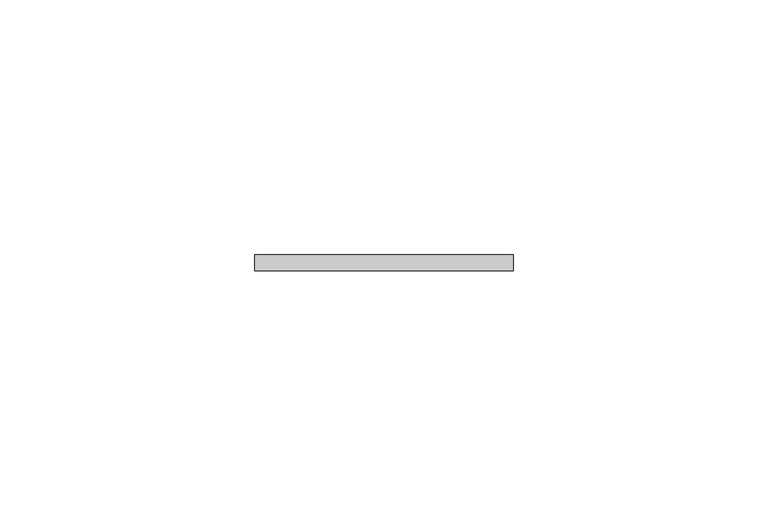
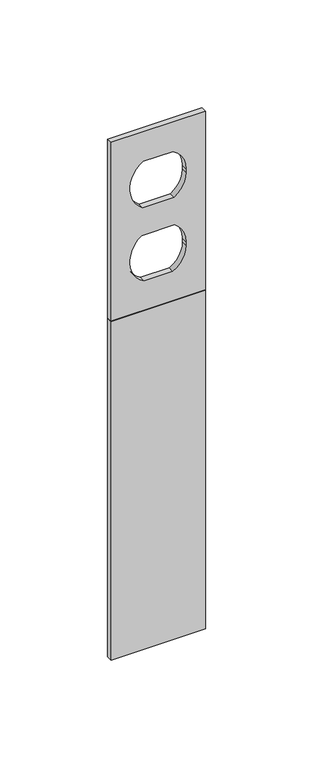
"""IFC4 building model written with IfcOpenShell, lengths in millimetres: proxy geometry, Accessory-Wiremold-Receptacle_Cover : 30TP-B."""

import ifcopenshell
import ifcopenshell.guid

model = None  # the IFC model being written
_history = None  # IfcOwnerHistory: only IFC2X3 demands one
_inside = {}  # id of a spatial element -> (the spatial element, [elements in it])
_under = {}  # id of a project, library or spatial element -> (it, [spatial elements below it])
_declared = {}  # id of a project -> (the project, [libraries it declares])
_typed = {}  # id of a type object -> (the type object, [elements of that type])
_made_of = {}  # id of a material, layer set ... -> (it, [elements and type objects made of it])


def new_model(schema):
    """Start an empty IFC model of exactly this schema.

    Asked for "IFC4X3", IfcOpenShell would pick the latest addendum, in which some entities
    have other attributes; the version numbers below select the first issue.
    IFC2X3 requires an IfcOwnerHistory on every rooted entity: one is made here for all.
    """
    global model, _history
    if schema == "IFC4X3":
        model = ifcopenshell.file(schema_version=(4, 3, 0, 0))
    else:
        model = ifcopenshell.file(schema=schema)
    _inside.clear()
    _under.clear()
    _declared.clear()
    _typed.clear()
    _made_of.clear()
    _history = None
    if model.schema == "IFC2X3":
        org = make("IfcOrganization", Name="unknown")
        user = make(
            "IfcPersonAndOrganization",
            ThePerson=make("IfcPerson", FamilyName="unknown"),
            TheOrganization=org,
        )
        app = make(
            "IfcApplication",
            ApplicationDeveloper=org,
            Version="unknown",
            ApplicationFullName="unknown",
            ApplicationIdentifier="unknown",
        )
        _history = make(
            "IfcOwnerHistory",
            OwningUser=user,
            OwningApplication=app,
            ChangeAction="ADDED",
            CreationDate=0,
        )
    return model


def make(cls, **values):
    """One entity of the class cls with the attributes given. An attribute that is None is left unset."""
    return model.create_entity(
        cls, **{name: value for name, value in values.items() if value is not None}
    )


def rooted(cls, **values):
    """An entity with a GlobalId (a new one), such as an element, a storey or a relation."""
    return make(cls, GlobalId=ifcopenshell.guid.new(), OwnerHistory=_history, **values)


def si_unit(unit_type, name, prefix=None):
    """IfcSIUnit, for example si_unit("LENGTHUNIT", "METRE", prefix="MILLI")."""
    return make("IfcSIUnit", UnitType=unit_type, Prefix=prefix, Name=name)


def assignment(units):
    """IfcUnitAssignment: the units of a project."""
    return None if units is None else make("IfcUnitAssignment", Units=units)


def point(xyz):
    """IfcCartesianPoint."""
    return None if xyz is None else make("IfcCartesianPoint", Coordinates=xyz)


def direction(xyz):
    """IfcDirection."""
    return None if xyz is None else make("IfcDirection", DirectionRatios=xyz)


def frame(location, z_axis=None, x_axis=None):
    """IfcAxis2Placement3D, a coordinate frame: its origin and axes. An axis left out is left unset."""
    return make(
        "IfcAxis2Placement3D",
        Location=point(location),
        Axis=direction(z_axis),
        RefDirection=direction(x_axis),
    )


def frame_2d(location, x_axis=None):
    """IfcAxis2Placement2D, a coordinate frame in the plane: its origin and x axis."""
    return make(
        "IfcAxis2Placement2D", Location=point(location), RefDirection=direction(x_axis)
    )


def origin():
    """The frame at (0, 0, 0) with its axes left unset."""
    return frame((0.0, 0.0, 0.0))


def place(relative_to, where):
    """IfcLocalPlacement: puts the frame where relative to a parent placement (None: the world)."""
    return make(
        "IfcLocalPlacement", PlacementRelTo=relative_to, RelativePlacement=where
    )


def context(
    kind, dimensions, precision=None, world=None, true_north=None, identifier=None
):
    """IfcGeometricRepresentationContext, for example the 3D "Model" context."""
    return make(
        "IfcGeometricRepresentationContext",
        ContextIdentifier=identifier,
        ContextType=kind,
        CoordinateSpaceDimension=dimensions,
        Precision=precision,
        WorldCoordinateSystem=world,
        TrueNorth=true_north,
    )


def project(units=None, contexts=None):
    """IfcProject with its units and contexts."""
    return rooted(
        "IfcProject",
        Name="project",
        RepresentationContexts=contexts,
        UnitsInContext=assignment(units),
    )


def spatial(cls, under=None, at=None, **own):
    """A site, building, storey or space (cls), placed at a placement, below another one or the project."""
    s = rooted(cls, ObjectPlacement=at, **own)
    if under is not None:
        _under.setdefault(under.id(), (under, []))[1].append(s)
    return s


def polyline(points):
    """IfcPolyline through the points."""
    return make("IfcPolyline", Points=[point(p) for p in points])


def circle_curve(where, radius):
    """IfcCircle in the frame where."""
    return make("IfcCircle", Position=where, Radius=radius)


def trimmed(basis, trim1, trim2, sense, master):
    """IfcTrimmedCurve: the piece of a basis curve between two trims."""
    return make(
        "IfcTrimmedCurve",
        BasisCurve=basis,
        Trim1=trim1,
        Trim2=trim2,
        SenseAgreement=sense,
        MasterRepresentation=master,
    )


def segment(curve, same_sense, transition):
    """IfcCompositeCurveSegment."""
    return make(
        "IfcCompositeCurveSegment",
        Transition=transition,
        SameSense=same_sense,
        ParentCurve=curve,
    )


def composite_curve(segments, self_intersect=None):
    """IfcCompositeCurve: segments joined end to end."""
    return make("IfcCompositeCurve", Segments=segments, SelfIntersect=self_intersect)


def outline(outer, holes=None, kind="AREA"):
    """IfcArbitraryClosedProfileDef: a profile drawn as a closed curve; with holes, ...WithVoids."""
    if holes is None:
        return make("IfcArbitraryClosedProfileDef", ProfileType=kind, OuterCurve=outer)
    return make(
        "IfcArbitraryProfileDefWithVoids",
        ProfileType=kind,
        OuterCurve=outer,
        InnerCurves=holes,
    )


def extrude(swept, where, along, depth):
    """IfcExtrudedAreaSolid: the profile swept, set in the frame where, extruded along a direction by depth."""
    return make(
        "IfcExtrudedAreaSolid",
        SweptArea=swept,
        Position=where,
        ExtrudedDirection=direction(along),
        Depth=depth,
    )


def shape(context_of_items, identifier, shape_type, items):
    """IfcShapeRepresentation: the items that make up one representation, for example the "Body"."""
    return make(
        "IfcShapeRepresentation",
        ContextOfItems=context_of_items,
        RepresentationIdentifier=identifier,
        RepresentationType=shape_type,
        Items=items,
    )


def source(mapping_origin, context_of_items, identifier, shape_type, items):
    """IfcRepresentationMap: a shape defined once, which mapped items show again and again."""
    return make(
        "IfcRepresentationMap",
        MappingOrigin=mapping_origin,
        MappedRepresentation=shape(context_of_items, identifier, shape_type, items),
    )


def transform(
    local_origin,
    x_axis=None,
    y_axis=None,
    z_axis=None,
    scale=None,
    scale2=None,
    scale3=None,
    uniform=True,
):
    """IfcCartesianTransformationOperator3D, or its non-uniform kind. x_axis, y_axis, z_axis: its Axis1, 2, 3."""
    if uniform:
        return make(
            "IfcCartesianTransformationOperator3D",
            Axis1=direction(x_axis),
            Axis2=direction(y_axis),
            LocalOrigin=point(local_origin),
            Scale=scale,
            Axis3=direction(z_axis),
        )
    return make(
        "IfcCartesianTransformationOperator3DnonUniform",
        Axis1=direction(x_axis),
        Axis2=direction(y_axis),
        LocalOrigin=point(local_origin),
        Scale=scale,
        Axis3=direction(z_axis),
        Scale2=scale2,
        Scale3=scale3,
    )


def mapped(mapping_source, mapping_target):
    """IfcMappedItem: shows the shape of a source again, moved by a transform."""
    return make(
        "IfcMappedItem", MappingSource=mapping_source, MappingTarget=mapping_target
    )


def made_of(thing, what):
    """Note that an element or type object is made of a material, layer set ...; save() writes the relation."""
    if what is not None:
        _made_of.setdefault(what.id(), (what, []))[1].append(thing)
    return thing


def element(
    cls,
    number,
    at=None,
    inside=None,
    cuts=None,
    type_object=None,
    material=None,
    context=None,
    identifier="Body",
    shape_type=None,
    held_by="IfcProductDefinitionShape",
    body=None,
    shapes=None,
    **own,
):
    """One element of the class cls, such as IfcWall. Its Tag is "e" and its number.

    at: its placement. inside: the storey or other place that contains it. cuts: it is an
    opening in that element (IfcRelVoidsElement). A single representation is given by context,
    identifier, shape_type and body (its items); several are given by shapes. held_by: the class
    of the entity that holds the representations. save() writes the other relations.
    """
    e = rooted(cls, Tag="e%d" % number, ObjectPlacement=at, **own)
    if body is not None:
        shapes = [shape(context, identifier, shape_type, body)]
    if shapes is not None:
        e.Representation = make(held_by, Representations=shapes)
    if inside is not None:
        _inside.setdefault(inside.id(), (inside, []))[1].append(e)
    if cuts is not None:
        rooted(
            "IfcRelVoidsElement", RelatingBuildingElement=cuts, RelatedOpeningElement=e
        )
    if type_object is not None:
        _typed.setdefault(type_object.id(), (type_object, []))[1].append(e)
    return made_of(e, material)


def aggregate(whole, parts):
    """IfcRelAggregates: a whole, such as a stair, and the parts it consists of."""
    return rooted("IfcRelAggregates", RelatingObject=whole, RelatedObjects=parts)


def save(model, path):
    """Write the relations noted so far, then the file.

    IfcRelAggregates (storeys below a building ...), IfcRelContainedInSpatialStructure (elements
    in a storey), IfcRelDefinesByType, IfcRelAssociatesMaterial and IfcRelDeclares: one each for
    every whole, place, type object, material and project.
    """
    for whole, parts in _under.values():
        aggregate(whole, parts)
    for where, things in _inside.values():
        rooted(
            "IfcRelContainedInSpatialStructure",
            RelatedElements=things,
            RelatingStructure=where,
        )
    for kind, things in _typed.values():
        rooted("IfcRelDefinesByType", RelatedObjects=things, RelatingType=kind)
    for what, things in _made_of.values():
        rooted("IfcRelAssociatesMaterial", RelatedObjects=things, RelatingMaterial=what)
    for by, libraries in _declared.values():
        rooted("IfcRelDeclares", RelatingContext=by, RelatedDefinitions=libraries)
    model.write(path)


def electrical_fixtures_99e873c0(model_context):
    return source(origin(), model_context, "Body", "SweptSolid", [
        extrude(outline(polyline([(25.4, -1.5875), (-25.4, -1.5875), (-25.4, 1.5875), (25.4, 1.5875), (25.4, -1.5875)])), frame((0.0, 0.0, 25.4), z_axis=(0.0, 0.0, 1.0), x_axis=(1.0, 0.0, 0.0)), (0.0, 0.0, 1.0), 192.0875),
        extrude(outline(polyline([(319.0875, 25.4), (319.0875, -25.4), (217.4875, -25.4), (217.4875, 25.4), (319.0875, 25.4)]), holes=[composite_curve([segment(polyline([(302.1707031, -7.9339585), (302.1707031, 8.0597711)]), True, "CONTINUOUS"), segment(trimmed(circle_curve(frame_2d((290.0994312, 0.9957546)), 13.9862766), [point((302.1707031, 8.0597711))], [point((290.0994312, 14.9820313))], True, "CARTESIAN"), True, "CONTINUOUS"), segment(polyline([(290.0994312, 14.9820313), (288.0119281, 14.9820313)]), True, "CONTINUOUS"), segment(trimmed(circle_curve(frame_2d((288.0119281, 0.9820313)), 14.0), [point((288.0119281, 14.9820313))], [point((276.1753906, 8.4584194))], True, "CARTESIAN"), True, "CONTINUOUS"), segment(polyline([(276.1753906, 8.4584194), (276.1753906, -8.3446349)]), True, "CONTINUOUS"), segment(trimmed(circle_curve(frame_2d((288.139705, -0.8801276)), 14.1019036), [point((276.1753906, -8.3446349))], [point((288.139705, -14.9820312))], True, "CARTESIAN"), True, "CONTINUOUS"), segment(polyline([(288.139705, -14.9820312), (290.05723, -14.9820312)]), True, "CONTINUOUS"), segment(trimmed(circle_curve(frame_2d((290.05723, -1.0483243)), 13.933707), [point((290.05723, -14.9820312))], [point((302.1707031, -7.9339585))], True, "CARTESIAN"), True, "CONTINUOUS")], self_intersect=False), composite_curve([segment(polyline([(260.3996094, -8.6075876), (260.3996094, 8.7168414)]), True, "CONTINUOUS"), segment(trimmed(circle_curve(frame_2d((248.7418661, 1.0035576)), 13.9784736), [point((260.3996094, 8.7168414))], [point((248.7418661, 14.9820313))], True, "CARTESIAN"), True, "CONTINUOUS"), segment(polyline([(248.7418661, 14.9820313), (246.6474059, 14.9820313)]), True, "CONTINUOUS"), segment(trimmed(circle_curve(frame_2d((246.6474059, 0.9731741)), 14.0088572), [point((246.6474059, 14.9820313))], [point((234.4042969, 7.7815778))], True, "CARTESIAN"), True, "CONTINUOUS"), segment(polyline([(234.4042969, 7.7815778), (234.4042969, -7.6594621)]), True, "CONTINUOUS"), segment(trimmed(circle_curve(frame_2d((246.7750096, -0.8712357)), 14.1107955), [point((234.4042969, -7.6594621))], [point((246.7750096, -14.9820312))], True, "CARTESIAN"), True, "CONTINUOUS"), segment(polyline([(246.7750096, -14.9820312), (248.6996848, -14.9820312)]), True, "CONTINUOUS"), segment(trimmed(circle_curve(frame_2d((248.6996848, -1.0575402)), 13.9244911), [point((248.6996848, -14.9820312))], [point((260.3996094, -8.6075876))], True, "CARTESIAN"), True, "CONTINUOUS")], self_intersect=False)]), frame((0.0, -1.5875, 0.0), z_axis=(0.0, 1.0, 0.0), x_axis=(0.0, 0.0, 1.0)), (0.0, 0.0, 1.0), 3.175),
    ])


if __name__ == "__main__":
    model = new_model("IFC4")
    model_context = context("Model", 3, world=origin())
    ifc_project = project(units=[si_unit("LENGTHUNIT", "METRE", prefix="MILLI")], contexts=[model_context])
    site = spatial("IfcSite", under=ifc_project)
    building = spatial("IfcBuilding", under=site)
    placement = place(None, origin())
    electrical_fixtures_shape = electrical_fixtures_99e873c0(model_context)
    element("IfcBuildingElementProxy", 1, Name="Accessory-Wiremold-Receptacle_Cover : 30TP-B", ObjectType="Accessory-Wiremold-Receptacle_Cover : 30TP-B", at=placement, inside=building, context=model_context, shape_type="MappedRepresentation", body=[
        mapped(electrical_fixtures_shape, transform((0.0, 0.0, 0.0), x_axis=(1.0, 0.0, 0.0), y_axis=(0.0, 1.0, 0.0), z_axis=(0.0, 0.0, 1.0))),
    ])
    save(model, "model.ifc")
